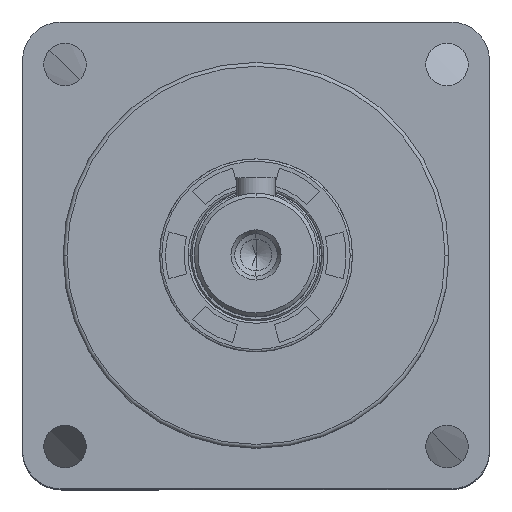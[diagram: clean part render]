
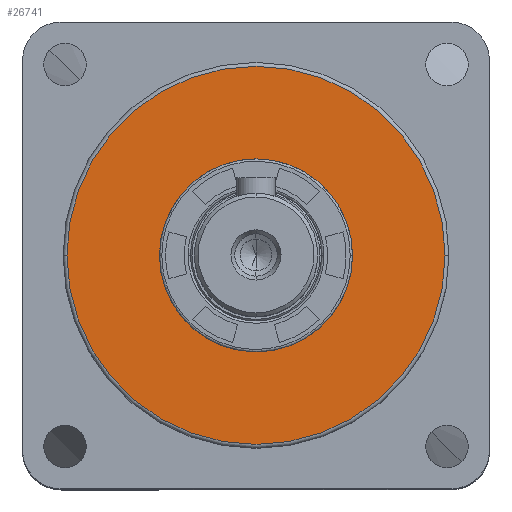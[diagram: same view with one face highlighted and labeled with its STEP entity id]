
A CAD part, top view. The second image highlights one B-rep face of the part: STEP entity #26741.
In plain terms, the highlighted planar face has unit normal (0, 0, 1).
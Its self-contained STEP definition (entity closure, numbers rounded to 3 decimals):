
#188 = EDGE_CURVE ( 'NONE', #28065, #31662, #26324, .T. ) ;
#1404 = AXIS2_PLACEMENT_3D ( 'NONE', #6189, #31139, #6072 ) ;
#2391 = CARTESIAN_POINT ( 'NONE',  ( 0., 0., 21. ) ) ;
#4207 = EDGE_CURVE ( 'NONE', #4952, #17855, #18108, .T. ) ;
#4254 = DIRECTION ( 'NONE',  ( 0., 0., 1. ) ) ;
#4952 = VERTEX_POINT ( 'NONE', #25958 ) ;
#5656 = DIRECTION ( 'NONE',  ( 0., 0., 1. ) ) ;
#6072 = DIRECTION ( 'NONE',  ( 1., 0., 0. ) ) ;
#6189 = CARTESIAN_POINT ( 'NONE',  ( 0., 0., 21. ) ) ;
#6312 = CIRCLE ( 'NONE', #7068, 24.5 ) ;
#7068 = AXIS2_PLACEMENT_3D ( 'NONE', #15731, #5656, #20755 ) ;
#7194 = DIRECTION ( 'NONE',  ( 1., 0., 0. ) ) ;
#8552 = AXIS2_PLACEMENT_3D ( 'NONE', #29315, #4254, #7194 ) ;
#9336 = AXIS2_PLACEMENT_3D ( 'NONE', #9834, #30629, #22979 ) ;
#9834 = CARTESIAN_POINT ( 'NONE',  ( 0., 0., 21. ) ) ;
#10073 = EDGE_LOOP ( 'NONE', ( #19651, #21449 ) ) ;
#12363 = DIRECTION ( 'NONE',  ( 1., 0., 0. ) ) ;
#15731 = CARTESIAN_POINT ( 'NONE',  ( 0., 0., 21. ) ) ;
#15763 = CARTESIAN_POINT ( 'NONE',  ( -12.5, 0., 21. ) ) ;
#15886 = ORIENTED_EDGE ( 'NONE', *, *, #188, .F. ) ;
#17855 = VERTEX_POINT ( 'NONE', #19306 ) ;
#18108 = CIRCLE ( 'NONE', #1404, 24.5 ) ;
#18762 = CARTESIAN_POINT ( 'NONE',  ( 12.5, 0., 21. ) ) ;
#19306 = CARTESIAN_POINT ( 'NONE',  ( -24.5, 0., 21. ) ) ;
#19651 = ORIENTED_EDGE ( 'NONE', *, *, #4207, .T. ) ;
#19917 = DIRECTION ( 'NONE',  ( 0., 0., 1. ) ) ;
#20319 = PLANE ( 'NONE',  #22565 ) ;
#20755 = DIRECTION ( 'NONE',  ( 1., 0., 0. ) ) ;
#21449 = ORIENTED_EDGE ( 'NONE', *, *, #29086, .T. ) ;
#22565 = AXIS2_PLACEMENT_3D ( 'NONE', #2391, #19917, #12363 ) ;
#22979 = DIRECTION ( 'NONE',  ( 1., 0., 0. ) ) ;
#25958 = CARTESIAN_POINT ( 'NONE',  ( 24.5, 0., 21. ) ) ;
#26324 = CIRCLE ( 'NONE', #9336, 12.5 ) ;
#26741 = ADVANCED_FACE ( 'NONE', ( #30581, #28235 ), #20319, .T. ) ;
#26752 = ORIENTED_EDGE ( 'NONE', *, *, #29598, .F. ) ;
#27461 = CIRCLE ( 'NONE', #8552, 12.5 ) ;
#28065 = VERTEX_POINT ( 'NONE', #15763 ) ;
#28235 = FACE_BOUND ( 'NONE', #32038, .T. ) ;
#29086 = EDGE_CURVE ( 'NONE', #17855, #4952, #6312, .T. ) ;
#29315 = CARTESIAN_POINT ( 'NONE',  ( 0., 0., 21. ) ) ;
#29598 = EDGE_CURVE ( 'NONE', #31662, #28065, #27461, .T. ) ;
#30581 = FACE_OUTER_BOUND ( 'NONE', #10073, .T. ) ;
#30629 = DIRECTION ( 'NONE',  ( 0., 0., 1. ) ) ;
#31139 = DIRECTION ( 'NONE',  ( 0., 0., 1. ) ) ;
#31662 = VERTEX_POINT ( 'NONE', #18762 ) ;
#32038 = EDGE_LOOP ( 'NONE', ( #26752, #15886 ) ) ;
